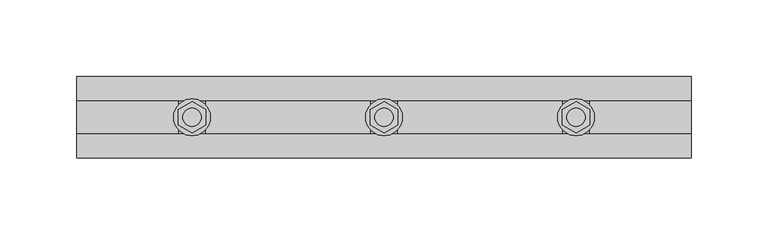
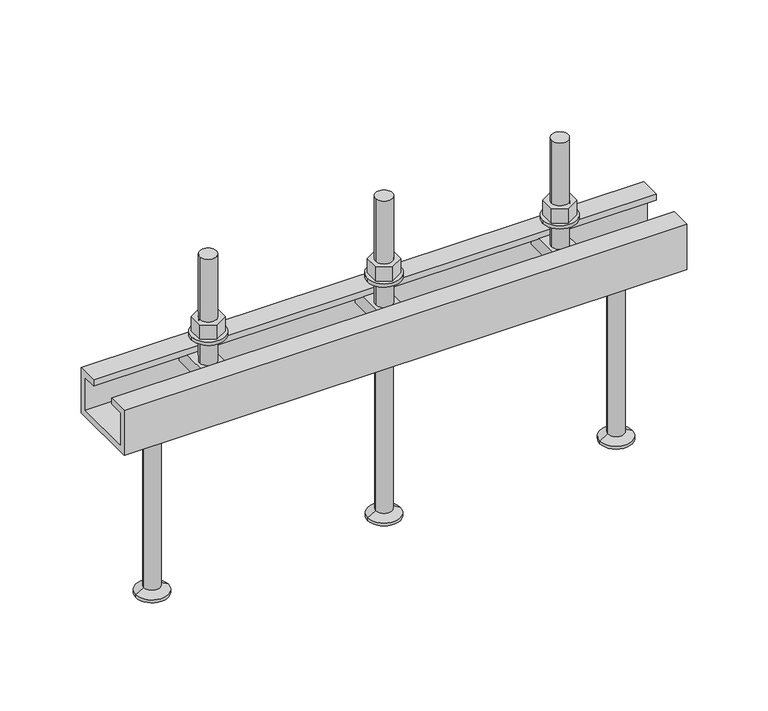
"""IFC4 building model written with IfcOpenShell, lengths in millimetres: fastener geometry, JTA-K JORDAHL® AnchorChannels : JTA-K L=400 mm."""

from ifc_helpers import new_model, si_unit, point, frame, frame_2d, origin, place, context, project, spatial, polyline, circle_curve, trimmed, segment, composite_curve, outline, extrude, source, transform, mapped, element, save
from ifc_brep_helpers import plane_surface, cylinder_surface, revolved_surface, advanced_brep


def fastener_f7e20542(model_context):
    return source(origin(), model_context, "Body", "SolidModel", [
        extrude(outline(polyline([(200.0, -10.3923048), (191.0, -5.1961524), (191.0, 5.1961524), (200.0, 10.3923048), (209.0, 5.1961524), (209.0, -5.1961524), (200.0, -10.3923048)]), holes=[composite_curve([segment(trimmed(circle_curve(frame_2d((200.0, 0.0)), 6.0), [point((194.0, 0.0))], [point((206.0, 0.0))], True, "CARTESIAN"), True, "CONTINUOUS"), segment(trimmed(circle_curve(frame_2d((200.0, 0.0)), 6.0), [point((206.0, 0.0))], [point((194.0, 0.0))], True, "CARTESIAN"), True, "CONTINUOUS")], self_intersect=False)]), frame((0.0, 0.0, 17.5), z_axis=(0.0, 0.0, 1.0), x_axis=(1.0, 0.0, 0.0)), (0.0, 0.0, 1.0), 10.8),
        extrude(outline(composite_curve([segment(trimmed(circle_curve(frame_2d((200.0, 0.0)), 12.0), [point((188.0, 0.0))], [point((212.0, 0.0))], False, "CARTESIAN"), True, "CONTINUOUS"), segment(trimmed(circle_curve(frame_2d((200.0, 0.0)), 12.0), [point((212.0, 0.0))], [point((188.0, 0.0))], False, "CARTESIAN"), True, "CONTINUOUS")], self_intersect=False), holes=[composite_curve([segment(trimmed(circle_curve(frame_2d((200.0, 0.0)), 6.5), [point((193.5, 0.0))], [point((206.5, 0.0))], True, "CARTESIAN"), True, "CONTINUOUS"), segment(trimmed(circle_curve(frame_2d((200.0, 0.0)), 6.5), [point((206.5, 0.0))], [point((193.5, 0.0))], True, "CARTESIAN"), True, "CONTINUOUS")], self_intersect=False)]), frame((0.0, 0.0, 15.0), z_axis=(0.0, 0.0, 1.0), x_axis=(1.0, 0.0, 0.0)), (0.0, 0.0, 1.0), 2.5),
        advanced_brep(
        [(208.5, -20.7, -4.5), (208.5, -20.7, -14.5), (208.5, 20.7, -14.5), (208.5, 20.7, -4.5), (191.5, -20.7, -4.5), (191.5, 20.7, -4.5), (191.5, 20.7, -14.5), (191.5, -20.7, -14.5), (206.0, 0.0, -4.5), (194.0, 0.0, -4.5), (194.0, 0.0, 75.5), (206.0, 0.0, 75.5)],
        [
            (0, 1),
            (1, 2),
            (2, 3),
            (3, 0),
            (4, 5),
            (5, 6),
            (6, 7),
            (7, 4),
            (3, 5),
            (4, 0),
            (8, 9, circle_curve(frame((200.0, 0.0, -4.5), z_axis=(0.0, 0.0, -1.0), x_axis=(1.0, 0.0, 0.0)), 6.0)),
            (9, 8, circle_curve(frame((200.0, 0.0, -4.5), z_axis=(0.0, 0.0, -1.0), x_axis=(1.0, 0.0, 0.0)), 6.0)),
            (2, 6),
            (1, 7),
            (10, 11, circle_curve(frame((200.0, 0.0, 75.5), z_axis=(0.0, 0.0, 1.0), x_axis=(1.0, 0.0, 0.0)), 6.0)),
            (11, 10, circle_curve(frame((200.0, 0.0, 75.5), z_axis=(0.0, 0.0, 1.0), x_axis=(1.0, 0.0, 0.0)), 6.0)),
            (11, 8),
            (9, 10),
        ],
        [
            plane_surface(frame((208.5, 20.7, -4.5), z_axis=(1.0, 0.0, 0.0), x_axis=(0.0, 1.0, 0.0))),
            plane_surface(frame((191.5, 20.7, -4.5), z_axis=(-1.0, 0.0, 0.0), x_axis=(0.0, -1.0, 0.0))),
            plane_surface(frame((208.5, -20.7, -4.5), z_axis=(0.0, 0.0, 1.0), x_axis=(-1.0, 0.0, 0.0))),
            plane_surface(frame((208.5, 20.7, -4.5), z_axis=(0.0, 1.0, 0.0), x_axis=(-1.0, 0.0, 0.0))),
            plane_surface(frame((208.5, 20.7, -14.5), z_axis=(0.0, 0.0, -1.0), x_axis=(-1.0, 0.0, 0.0))),
            plane_surface(frame((208.5, -20.7, -14.5), z_axis=(0.0, -1.0, 0.0), x_axis=(-1.0, 0.0, 0.0))),
            plane_surface(frame((206.0, 0.0, 75.5), z_axis=(0.0, 0.0, 1.0), x_axis=(0.0, -1.0, 0.0))),
            cylinder_surface(frame((200.0, 0.0, -4.5), z_axis=(0.0, 0.0, 1.0), x_axis=(1.0, 0.0, 0.0)), 6.0),
        ],
        [
            (0, [[1, 2, 3, 4]]),
            (1, [[5, 6, 7, 8]]),
            (2, [[9, -5, 10, -4], [11, 12]]),
            (3, [[13, -6, -9, -3]]),
            (4, [[14, -7, -13, -2]]),
            (5, [[-10, -8, -14, -1]]),
            (6, [[15, 16]]),
            (7, [[17, -12, 18, -16]]),
            (7, [[-18, -11, -17, -15]]),
        ],
    ),
        advanced_brep(
        [(200.0, 0.0, -34.0), (182.5, 0.0, -34.0), (217.5, 0.0, -34.0), (188.5, 0.0, -165.0), (200.0, 0.0, -165.0), (211.5, 0.0, -165.0), (188.5, 0.0, -163.0), (211.5, 0.0, -163.0), (194.2, 0.0, -159.7091035), (205.8, 0.0, -159.7091035), (194.2, 0.0, -37.0), (205.8, 0.0, -37.0)],
        [
            (0, 1),
            (1, 2, circle_curve(frame((200.0, 0.0, -34.0), z_axis=(0.0, 0.0, 1.0), x_axis=(1.0, 0.0, 0.0)), 17.5)),
            (2, 0),
            (2, 1, circle_curve(frame((200.0, 0.0, -34.0), z_axis=(0.0, 0.0, 1.0), x_axis=(1.0, 0.0, 0.0)), 17.5)),
            (3, 4),
            (4, 5),
            (5, 3, circle_curve(frame((200.0, 0.0, -165.0), z_axis=(0.0, 0.0, -1.0), x_axis=(1.0, 0.0, 0.0)), 11.5)),
            (3, 5, circle_curve(frame((200.0, 0.0, -165.0), z_axis=(0.0, 0.0, -1.0), x_axis=(1.0, 0.0, 0.0)), 11.5)),
            (6, 3),
            (5, 7),
            (7, 6, circle_curve(frame((200.0, 0.0, -163.0), z_axis=(0.0, 0.0, -1.0), x_axis=(1.0, 0.0, 0.0)), 11.5)),
            (6, 7, circle_curve(frame((200.0, 0.0, -163.0), z_axis=(0.0, 0.0, -1.0), x_axis=(1.0, 0.0, 0.0)), 11.5)),
            (8, 6),
            (7, 9),
            (9, 8, circle_curve(frame((200.0, 0.0, -159.7091035), z_axis=(0.0, 0.0, -1.0), x_axis=(1.0, 0.0, 0.0)), 5.8)),
            (8, 9, circle_curve(frame((200.0, 0.0, -159.7091035), z_axis=(0.0, 0.0, -1.0), x_axis=(1.0, 0.0, 0.0)), 5.8)),
            (10, 8),
            (9, 11),
            (11, 10, circle_curve(frame((200.0, 0.0, -37.0), z_axis=(0.0, 0.0, -1.0), x_axis=(1.0, 0.0, 0.0)), 5.8)),
            (10, 11, circle_curve(frame((200.0, 0.0, -37.0), z_axis=(0.0, 0.0, -1.0), x_axis=(1.0, 0.0, 0.0)), 5.8)),
            (1, 10),
            (11, 2),
        ],
        [
            plane_surface(frame((200.0, 0.0, -34.0), z_axis=(0.0, 0.0, 1.0), x_axis=(1.0, 0.0, 0.0))),
            plane_surface(frame((200.0, 0.0, -165.0), z_axis=(0.0, 0.0, -1.0), x_axis=(1.0, 0.0, 0.0))),
            cylinder_surface(frame((200.0, 0.0, 2345.3150031), z_axis=(0.0, 0.0, 1.0), x_axis=(1.0, 0.0, 0.0)), 11.5),
            revolved_surface(polyline([(211.5, 0.0, -163.0), (205.8, 0.0, -159.7091035)]), (200.0, 0.0, 2345.3150031), (0.0, 0.0, 1.0)),
            cylinder_surface(frame((200.0, 0.0, 2345.3150031), z_axis=(0.0, 0.0, 1.0), x_axis=(1.0, 0.0, 0.0)), 5.8),
            revolved_surface(polyline([(205.8, 0.0, -37.0), (217.5, 0.0, -34.0)]), (200.0, 0.0, 2345.3150031), (0.0, 0.0, 1.0)),
        ],
        [
            (0, [[1, 2, 3]]),
            (0, [[-3, 4, -1]]),
            (1, [[5, 6, 7]]),
            (1, [[-6, -5, 8]]),
            (2, [[9, -7, 10, 11]]),
            (2, [[-10, -8, -9, 12]]),
            (3, [[13, -11, 14, 15]]),
            (3, [[-14, -12, -13, 16]]),
            (4, [[17, -15, 18, 19]]),
            (4, [[-18, -16, -17, 20]]),
            (5, [[21, -19, 22, -2]]),
            (5, [[-22, -20, -21, -4]]),
        ],
    ),
        extrude(outline(polyline([(325.0, -10.3923048), (316.0, -5.1961524), (316.0, 5.1961524), (325.0, 10.3923048), (334.0, 5.1961524), (334.0, -5.1961524), (325.0, -10.3923048)]), holes=[composite_curve([segment(trimmed(circle_curve(frame_2d((325.0, 0.0)), 6.0), [point((319.0, 0.0))], [point((331.0, 0.0))], True, "CARTESIAN"), True, "CONTINUOUS"), segment(trimmed(circle_curve(frame_2d((325.0, 0.0)), 6.0), [point((331.0, 0.0))], [point((319.0, 0.0))], True, "CARTESIAN"), True, "CONTINUOUS")], self_intersect=False)]), frame((0.0, 0.0, 17.5), z_axis=(0.0, 0.0, 1.0), x_axis=(1.0, 0.0, 0.0)), (0.0, 0.0, 1.0), 10.8),
        extrude(outline(composite_curve([segment(trimmed(circle_curve(frame_2d((325.0, 0.0)), 12.0), [point((313.0, 0.0))], [point((337.0, 0.0))], False, "CARTESIAN"), True, "CONTINUOUS"), segment(trimmed(circle_curve(frame_2d((325.0, 0.0)), 12.0), [point((337.0, 0.0))], [point((313.0, 0.0))], False, "CARTESIAN"), True, "CONTINUOUS")], self_intersect=False), holes=[composite_curve([segment(trimmed(circle_curve(frame_2d((325.0, 0.0)), 6.5), [point((318.5, 0.0))], [point((331.5, 0.0))], True, "CARTESIAN"), True, "CONTINUOUS"), segment(trimmed(circle_curve(frame_2d((325.0, 0.0)), 6.5), [point((331.5, 0.0))], [point((318.5, 0.0))], True, "CARTESIAN"), True, "CONTINUOUS")], self_intersect=False)]), frame((0.0, 0.0, 15.0), z_axis=(0.0, 0.0, 1.0), x_axis=(1.0, 0.0, 0.0)), (0.0, 0.0, 1.0), 2.5),
        extrude(outline(polyline([(75.0, -10.3923048), (66.0, -5.1961524), (66.0, 5.1961524), (75.0, 10.3923048), (84.0, 5.1961524), (84.0, -5.1961524), (75.0, -10.3923048)]), holes=[composite_curve([segment(trimmed(circle_curve(frame_2d((75.0, 0.0)), 6.0), [point((69.0, 0.0))], [point((81.0, 0.0))], True, "CARTESIAN"), True, "CONTINUOUS"), segment(trimmed(circle_curve(frame_2d((75.0, 0.0)), 6.0), [point((81.0, 0.0))], [point((69.0, 0.0))], True, "CARTESIAN"), True, "CONTINUOUS")], self_intersect=False)]), frame((0.0, 0.0, 17.5), z_axis=(0.0, 0.0, 1.0), x_axis=(1.0, 0.0, 0.0)), (0.0, 0.0, 1.0), 10.8),
        extrude(outline(composite_curve([segment(trimmed(circle_curve(frame_2d((75.0, 0.0)), 12.0), [point((63.0, 0.0))], [point((87.0, 0.0))], False, "CARTESIAN"), True, "CONTINUOUS"), segment(trimmed(circle_curve(frame_2d((75.0, 0.0)), 12.0), [point((87.0, 0.0))], [point((63.0, 0.0))], False, "CARTESIAN"), True, "CONTINUOUS")], self_intersect=False), holes=[composite_curve([segment(trimmed(circle_curve(frame_2d((75.0, 0.0)), 6.5), [point((68.5, 0.0))], [point((81.5, 0.0))], True, "CARTESIAN"), True, "CONTINUOUS"), segment(trimmed(circle_curve(frame_2d((75.0, 0.0)), 6.5), [point((81.5, 0.0))], [point((68.5, 0.0))], True, "CARTESIAN"), True, "CONTINUOUS")], self_intersect=False)]), frame((0.0, 0.0, 15.0), z_axis=(0.0, 0.0, 1.0), x_axis=(1.0, 0.0, 0.0)), (0.0, 0.0, 1.0), 2.5),
        advanced_brep(
        [(333.5, -20.7, -4.5), (333.5, -20.7, -14.5), (333.5, 20.7, -14.5), (333.5, 20.7, -4.5), (316.5, -20.7, -4.5), (316.5, 20.7, -4.5), (316.5, 20.7, -14.5), (316.5, -20.7, -14.5), (331.0, 0.0, -4.5), (319.0, 0.0, -4.5), (319.0, 0.0, 75.5), (331.0, 0.0, 75.5)],
        [
            (0, 1),
            (1, 2),
            (2, 3),
            (3, 0),
            (4, 5),
            (5, 6),
            (6, 7),
            (7, 4),
            (3, 5),
            (4, 0),
            (8, 9, circle_curve(frame((325.0, 0.0, -4.5), z_axis=(0.0, 0.0, -1.0), x_axis=(1.0, 0.0, 0.0)), 6.0)),
            (9, 8, circle_curve(frame((325.0, 0.0, -4.5), z_axis=(0.0, 0.0, -1.0), x_axis=(1.0, 0.0, 0.0)), 6.0)),
            (2, 6),
            (1, 7),
            (10, 11, circle_curve(frame((325.0, 0.0, 75.5), z_axis=(0.0, 0.0, 1.0), x_axis=(1.0, 0.0, 0.0)), 6.0)),
            (11, 10, circle_curve(frame((325.0, 0.0, 75.5), z_axis=(0.0, 0.0, 1.0), x_axis=(1.0, 0.0, 0.0)), 6.0)),
            (11, 8),
            (9, 10),
        ],
        [
            plane_surface(frame((333.5, 20.7, -4.5), z_axis=(1.0, 0.0, 0.0), x_axis=(0.0, 1.0, 0.0))),
            plane_surface(frame((316.5, 20.7, -4.5), z_axis=(-1.0, 0.0, 0.0), x_axis=(0.0, -1.0, 0.0))),
            plane_surface(frame((333.5, -20.7, -4.5), z_axis=(0.0, 0.0, 1.0), x_axis=(-1.0, 0.0, 0.0))),
            plane_surface(frame((333.5, 20.7, -4.5), z_axis=(0.0, 1.0, 0.0), x_axis=(-1.0, 0.0, 0.0))),
            plane_surface(frame((333.5, 20.7, -14.5), z_axis=(0.0, 0.0, -1.0), x_axis=(-1.0, 0.0, 0.0))),
            plane_surface(frame((333.5, -20.7, -14.5), z_axis=(0.0, -1.0, 0.0), x_axis=(-1.0, 0.0, 0.0))),
            plane_surface(frame((331.0, 0.0, 75.5), z_axis=(0.0, 0.0, 1.0), x_axis=(0.0, -1.0, 0.0))),
            cylinder_surface(frame((325.0, 0.0, -4.5), z_axis=(0.0, 0.0, 1.0), x_axis=(1.0, 0.0, 0.0)), 6.0),
        ],
        [
            (0, [[1, 2, 3, 4]]),
            (1, [[5, 6, 7, 8]]),
            (2, [[9, -5, 10, -4], [11, 12]]),
            (3, [[13, -6, -9, -3]]),
            (4, [[14, -7, -13, -2]]),
            (5, [[-10, -8, -14, -1]]),
            (6, [[15, 16]]),
            (7, [[17, -12, 18, -16]]),
            (7, [[-18, -11, -17, -15]]),
        ],
    ),
        advanced_brep(
        [(83.5, -20.7, -4.5), (83.5, -20.7, -14.5), (83.5, 20.7, -14.5), (83.5, 20.7, -4.5), (66.5, -20.7, -4.5), (66.5, 20.7, -4.5), (66.5, 20.7, -14.5), (66.5, -20.7, -14.5), (81.0, 0.0, -4.5), (69.0, 0.0, -4.5), (69.0, 0.0, 75.5), (81.0, 0.0, 75.5)],
        [
            (0, 1),
            (1, 2),
            (2, 3),
            (3, 0),
            (4, 5),
            (5, 6),
            (6, 7),
            (7, 4),
            (3, 5),
            (4, 0),
            (8, 9, circle_curve(frame((75.0, 0.0, -4.5), z_axis=(0.0, 0.0, -1.0), x_axis=(1.0, 0.0, 0.0)), 6.0)),
            (9, 8, circle_curve(frame((75.0, 0.0, -4.5), z_axis=(0.0, 0.0, -1.0), x_axis=(1.0, 0.0, 0.0)), 6.0)),
            (2, 6),
            (1, 7),
            (10, 11, circle_curve(frame((75.0, 0.0, 75.5), z_axis=(0.0, 0.0, 1.0), x_axis=(1.0, 0.0, 0.0)), 6.0)),
            (11, 10, circle_curve(frame((75.0, 0.0, 75.5), z_axis=(0.0, 0.0, 1.0), x_axis=(1.0, 0.0, 0.0)), 6.0)),
            (11, 8),
            (9, 10),
        ],
        [
            plane_surface(frame((83.5, 20.7, -4.5), z_axis=(1.0, 0.0, 0.0), x_axis=(0.0, 1.0, 0.0))),
            plane_surface(frame((66.5, 20.7, -4.5), z_axis=(-1.0, 0.0, 0.0), x_axis=(0.0, -1.0, 0.0))),
            plane_surface(frame((83.5, -20.7, -4.5), z_axis=(0.0, 0.0, 1.0), x_axis=(-1.0, 0.0, 0.0))),
            plane_surface(frame((83.5, 20.7, -4.5), z_axis=(0.0, 1.0, 0.0), x_axis=(-1.0, 0.0, 0.0))),
            plane_surface(frame((83.5, 20.7, -14.5), z_axis=(0.0, 0.0, -1.0), x_axis=(-1.0, 0.0, 0.0))),
            plane_surface(frame((83.5, -20.7, -14.5), z_axis=(0.0, -1.0, 0.0), x_axis=(-1.0, 0.0, 0.0))),
            plane_surface(frame((81.0, 0.0, 75.5), z_axis=(0.0, 0.0, 1.0), x_axis=(0.0, -1.0, 0.0))),
            cylinder_surface(frame((75.0, 0.0, -4.5), z_axis=(0.0, 0.0, 1.0), x_axis=(1.0, 0.0, 0.0)), 6.0),
        ],
        [
            (0, [[1, 2, 3, 4]]),
            (1, [[5, 6, 7, 8]]),
            (2, [[9, -5, 10, -4], [11, 12]]),
            (3, [[13, -6, -9, -3]]),
            (4, [[14, -7, -13, -2]]),
            (5, [[-10, -8, -14, -1]]),
            (6, [[15, 16]]),
            (7, [[17, -12, 18, -16]]),
            (7, [[-18, -11, -17, -15]]),
        ],
    ),
        advanced_brep(
        [(365.0, 0.0, -34.0), (347.5, 0.0, -34.0), (382.5, 0.0, -34.0), (353.5, 0.0, -165.0), (365.0, 0.0, -165.0), (376.5, 0.0, -165.0), (353.5, 0.0, -163.0), (376.5, 0.0, -163.0), (359.2, 0.0, -159.7091035), (370.8, 0.0, -159.7091035), (359.2, 0.0, -37.0), (370.8, 0.0, -37.0)],
        [
            (0, 1),
            (1, 2, circle_curve(frame((365.0, 0.0, -34.0), z_axis=(0.0, 0.0, 1.0), x_axis=(1.0, 0.0, 0.0)), 17.5)),
            (2, 0),
            (2, 1, circle_curve(frame((365.0, 0.0, -34.0), z_axis=(0.0, 0.0, 1.0), x_axis=(1.0, 0.0, 0.0)), 17.5)),
            (3, 4),
            (4, 5),
            (5, 3, circle_curve(frame((365.0, 0.0, -165.0), z_axis=(0.0, 0.0, -1.0), x_axis=(1.0, 0.0, 0.0)), 11.5)),
            (3, 5, circle_curve(frame((365.0, 0.0, -165.0), z_axis=(0.0, 0.0, -1.0), x_axis=(1.0, 0.0, 0.0)), 11.5)),
            (6, 3),
            (5, 7),
            (7, 6, circle_curve(frame((365.0, 0.0, -163.0), z_axis=(0.0, 0.0, -1.0), x_axis=(1.0, 0.0, 0.0)), 11.5)),
            (6, 7, circle_curve(frame((365.0, 0.0, -163.0), z_axis=(0.0, 0.0, -1.0), x_axis=(1.0, 0.0, 0.0)), 11.5)),
            (8, 6),
            (7, 9),
            (9, 8, circle_curve(frame((365.0, 0.0, -159.7091035), z_axis=(0.0, 0.0, -1.0), x_axis=(1.0, 0.0, 0.0)), 5.8)),
            (8, 9, circle_curve(frame((365.0, 0.0, -159.7091035), z_axis=(0.0, 0.0, -1.0), x_axis=(1.0, 0.0, 0.0)), 5.8)),
            (10, 8),
            (9, 11),
            (11, 10, circle_curve(frame((365.0, 0.0, -37.0), z_axis=(0.0, 0.0, -1.0), x_axis=(1.0, 0.0, 0.0)), 5.8)),
            (10, 11, circle_curve(frame((365.0, 0.0, -37.0), z_axis=(0.0, 0.0, -1.0), x_axis=(1.0, 0.0, 0.0)), 5.8)),
            (1, 10),
            (11, 2),
        ],
        [
            plane_surface(frame((365.0, 0.0, -34.0), z_axis=(0.0, 0.0, 1.0), x_axis=(1.0, 0.0, 0.0))),
            plane_surface(frame((365.0, 0.0, -165.0), z_axis=(0.0, 0.0, -1.0), x_axis=(1.0, 0.0, 0.0))),
            cylinder_surface(frame((365.0, 0.0, 2345.3150031), z_axis=(0.0, 0.0, 1.0), x_axis=(1.0, 0.0, 0.0)), 11.5),
            revolved_surface(polyline([(376.5, 0.0, -163.0), (370.8, 0.0, -159.7091035)]), (365.0, 0.0, 2345.3150031), (0.0, 0.0, 1.0)),
            cylinder_surface(frame((365.0, 0.0, 2345.3150031), z_axis=(0.0, 0.0, 1.0), x_axis=(1.0, 0.0, 0.0)), 5.8),
            revolved_surface(polyline([(370.8, 0.0, -37.0), (382.5, 0.0, -34.0)]), (365.0, 0.0, 2345.3150031), (0.0, 0.0, 1.0)),
        ],
        [
            (0, [[1, 2, 3]]),
            (0, [[-3, 4, -1]]),
            (1, [[5, 6, 7]]),
            (1, [[-6, -5, 8]]),
            (2, [[9, -7, 10, 11]]),
            (2, [[-10, -8, -9, 12]]),
            (3, [[13, -11, 14, 15]]),
            (3, [[-14, -12, -13, 16]]),
            (4, [[17, -15, 18, 19]]),
            (4, [[-18, -16, -17, 20]]),
            (5, [[21, -19, 22, -2]]),
            (5, [[-22, -20, -21, -4]]),
        ],
    ),
        advanced_brep(
        [(35.0, 0.0, -34.0), (17.5, 0.0, -34.0), (52.5, 0.0, -34.0), (23.5, 0.0, -165.0), (35.0, 0.0, -165.0), (46.5, 0.0, -165.0), (23.5, 0.0, -163.0), (46.5, 0.0, -163.0), (29.2, 0.0, -159.7091035), (40.8, 0.0, -159.7091035), (29.2, 0.0, -37.0), (40.8, 0.0, -37.0)],
        [
            (0, 1),
            (1, 2, circle_curve(frame((35.0, 0.0, -34.0), z_axis=(0.0, 0.0, 1.0), x_axis=(1.0, 0.0, 0.0)), 17.5)),
            (2, 0),
            (2, 1, circle_curve(frame((35.0, 0.0, -34.0), z_axis=(0.0, 0.0, 1.0), x_axis=(1.0, 0.0, 0.0)), 17.5)),
            (3, 4),
            (4, 5),
            (5, 3, circle_curve(frame((35.0, 0.0, -165.0), z_axis=(0.0, 0.0, -1.0), x_axis=(1.0, 0.0, 0.0)), 11.5)),
            (3, 5, circle_curve(frame((35.0, 0.0, -165.0), z_axis=(0.0, 0.0, -1.0), x_axis=(1.0, 0.0, 0.0)), 11.5)),
            (6, 3),
            (5, 7),
            (7, 6, circle_curve(frame((35.0, 0.0, -163.0), z_axis=(0.0, 0.0, -1.0), x_axis=(1.0, 0.0, 0.0)), 11.5)),
            (6, 7, circle_curve(frame((35.0, 0.0, -163.0), z_axis=(0.0, 0.0, -1.0), x_axis=(1.0, 0.0, 0.0)), 11.5)),
            (8, 6),
            (7, 9),
            (9, 8, circle_curve(frame((35.0, 0.0, -159.7091035), z_axis=(0.0, 0.0, -1.0), x_axis=(1.0, 0.0, 0.0)), 5.8)),
            (8, 9, circle_curve(frame((35.0, 0.0, -159.7091035), z_axis=(0.0, 0.0, -1.0), x_axis=(1.0, 0.0, 0.0)), 5.8)),
            (10, 8),
            (9, 11),
            (11, 10, circle_curve(frame((35.0, 0.0, -37.0), z_axis=(0.0, 0.0, -1.0), x_axis=(1.0, 0.0, 0.0)), 5.8)),
            (10, 11, circle_curve(frame((35.0, 0.0, -37.0), z_axis=(0.0, 0.0, -1.0), x_axis=(1.0, 0.0, 0.0)), 5.8)),
            (1, 10),
            (11, 2),
        ],
        [
            plane_surface(frame((35.0, 0.0, -34.0), z_axis=(0.0, 0.0, 1.0), x_axis=(1.0, 0.0, 0.0))),
            plane_surface(frame((35.0, 0.0, -165.0), z_axis=(0.0, 0.0, -1.0), x_axis=(1.0, 0.0, 0.0))),
            cylinder_surface(frame((35.0, 0.0, 2345.3150031), z_axis=(0.0, 0.0, 1.0), x_axis=(1.0, 0.0, 0.0)), 11.5),
            revolved_surface(polyline([(46.5, 0.0, -163.0), (40.8, 0.0, -159.7091035)]), (35.0, 0.0, 2345.3150031), (0.0, 0.0, 1.0)),
            cylinder_surface(frame((35.0, 0.0, 2345.3150031), z_axis=(0.0, 0.0, 1.0), x_axis=(1.0, 0.0, 0.0)), 5.8),
            revolved_surface(polyline([(40.8, 0.0, -37.0), (52.5, 0.0, -34.0)]), (35.0, 0.0, 2345.3150031), (0.0, 0.0, 1.0)),
        ],
        [
            (0, [[1, 2, 3]]),
            (0, [[-3, 4, -1]]),
            (1, [[5, 6, 7]]),
            (1, [[-6, -5, 8]]),
            (2, [[9, -7, 10, 11]]),
            (2, [[-10, -8, -9, 12]]),
            (3, [[13, -11, 14, 15]]),
            (3, [[-14, -12, -13, 16]]),
            (4, [[17, -15, 18, 19]]),
            (4, [[-18, -16, -17, 20]]),
            (5, [[21, -19, 22, -2]]),
            (5, [[-22, -20, -21, -4]]),
        ],
    ),
        extrude(outline(polyline([(-26.5, 0.0), (-11.0, 0.0), (-11.0, -4.5), (-22.0, -4.5), (-22.0, -29.5), (22.0, -29.5), (22.0, -4.5), (11.0, -4.5), (11.0, 0.0), (26.5, 0.0), (26.5, -34.0), (-26.5, -34.0), (-26.5, 0.0)])), frame((0.0, 0.0, 0.0), z_axis=(1.0, 0.0, 0.0), x_axis=(0.0, 1.0, 0.0)), (0.0, 0.0, 1.0), 400.0),
    ])


if __name__ == "__main__":
    model = new_model("IFC4")
    model_context = context("Model", 3, world=origin())
    ifc_project = project(units=[si_unit("LENGTHUNIT", "METRE", prefix="MILLI")], contexts=[model_context])
    site = spatial("IfcSite", under=ifc_project)
    building = spatial("IfcBuilding", under=site)
    placement = place(None, origin())
    fastener_shape = fastener_f7e20542(model_context)
    element("IfcFastener", 1, ObjectType="JTA-K JORDAHL® AnchorChannels : JTA-K L=400 mm", at=placement, inside=building, context=model_context, shape_type="MappedRepresentation", body=[
        mapped(fastener_shape, transform((0.0, 0.0, 0.0), x_axis=(1.0, 0.0, 0.0), y_axis=(0.0, 1.0, 0.0), z_axis=(0.0, 0.0, 1.0))),
    ])
    save(model, "model.ifc")
